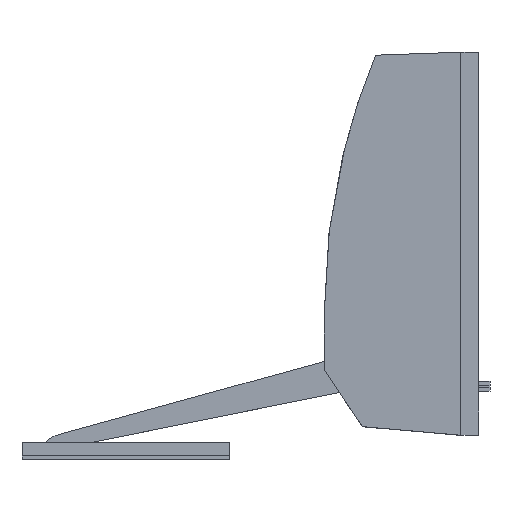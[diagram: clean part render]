
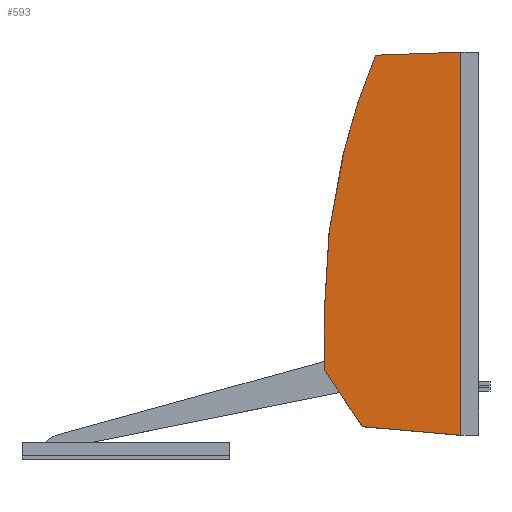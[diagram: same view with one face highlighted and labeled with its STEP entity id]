
A CAD part, top view. The second image highlights one B-rep face of the part: STEP entity #593.
In plain terms, the highlighted planar face has unit normal (-0.035, 0, 0.999).
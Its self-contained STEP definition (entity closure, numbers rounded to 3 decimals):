
#593 = ADVANCED_FACE( '', ( #1233 ), #1234, .F. );
#1233 = FACE_OUTER_BOUND( '', #1931, .T. );
#1234 = PLANE( '', #1932 );
#1931 = EDGE_LOOP( '', ( #3577, #3578, #3579, #3580, #3581, #3582 ) );
#1932 = AXIS2_PLACEMENT_3D( '', #3583, #3584, #3585 );
#3577 = ORIENTED_EDGE( '', *, *, #3740, .T. );
#3578 = ORIENTED_EDGE( '', *, *, #4039, .T. );
#3579 = ORIENTED_EDGE( '', *, *, #4133, .T. );
#3580 = ORIENTED_EDGE( '', *, *, #4205, .T. );
#3581 = ORIENTED_EDGE( '', *, *, #4246, .T. );
#3582 = ORIENTED_EDGE( '', *, *, #4303, .T. );
#3583 = CARTESIAN_POINT( '', ( -72.5, 150., 13.468 ) );
#3584 = DIRECTION( '', ( 0.035, 0., -0.999 ) );
#3585 = DIRECTION( '', ( -0.999, 0., -0.035 ) );
#3740 = EDGE_CURVE( '', #4459, #4466, #4468, .T. );
#4039 = EDGE_CURVE( '', #4466, #4951, #4953, .F. );
#4133 = EDGE_CURVE( '', #4951, #5090, #5092, .T. );
#4205 = EDGE_CURVE( '', #5090, #5188, #5190, .T. );
#4246 = EDGE_CURVE( '', #5188, #5238, #5240, .T. );
#4303 = EDGE_CURVE( '', #5238, #4459, #5304, .T. );
#4459 = VERTEX_POINT( '', #5519 );
#4466 = VERTEX_POINT( '', #5528 );
#4468 = LINE( '', #5531, #5532 );
#4951 = VERTEX_POINT( '', #6340 );
#4953 = ELLIPSE( '', #6343, 356.737, 356.52 );
#5090 = VERTEX_POINT( '', #6564 );
#5092 = LINE( '', #6567, #6568 );
#5188 = VERTEX_POINT( '', #6704 );
#5190 = LINE( '', #6707, #6708 );
#5238 = VERTEX_POINT( '', #6773 );
#5240 = LINE( '', #6776, #6777 );
#5304 = LINE( '', #6866, #6867 );
#5519 = CARTESIAN_POINT( '', ( 0., 145.365, 16. ) );
#5528 = CARTESIAN_POINT( '', ( -45.236, 143.786, 14.42 ) );
#5531 = CARTESIAN_POINT( '', ( -72.25, 142.843, 13.477 ) );
#5532 = VECTOR( '', #6979, 1000. );
#6340 = CARTESIAN_POINT( '', ( -72.5, 7.049, 13.468 ) );
#6343 = AXIS2_PLACEMENT_3D( '', #7302, #7303, #7304 );
#6564 = CARTESIAN_POINT( '', ( -72.5, -23.102, 13.468 ) );
#6567 = CARTESIAN_POINT( '', ( -72.5, 150., 13.468 ) );
#6568 = VECTOR( '', #7414, 1000. );
#6704 = CARTESIAN_POINT( '', ( -52.284, -53.426, 14.174 ) );
#6707 = CARTESIAN_POINT( '', ( -152.363, 96.693, 10.679 ) );
#6708 = VECTOR( '', #7489, 1000. );
#6773 = CARTESIAN_POINT( '', ( 0., -58., 16. ) );
#6776 = CARTESIAN_POINT( '', ( -89.987, -50.128, 12.857 ) );
#6777 = VECTOR( '', #7517, 1000. );
#6866 = CARTESIAN_POINT( '', ( 0., -58., 16. ) );
#6867 = VECTOR( '', #7552, 1000. );
#6979 = DIRECTION( '', ( -0.999, -0.035, -0.035 ) );
#7302 = CARTESIAN_POINT( '', ( 284.02, 7.049, 25.919 ) );
#7303 = DIRECTION( '', ( 0.035, 0., -0.999 ) );
#7304 = DIRECTION( '', ( -0.999, 0., -0.035 ) );
#7414 = DIRECTION( '', ( 0., -1., 0. ) );
#7489 = DIRECTION( '', ( 0.555, -0.832, 0.019 ) );
#7517 = DIRECTION( '', ( 0.996, -0.087, 0.035 ) );
#7552 = DIRECTION( '', ( 0., 1., 0. ) );
